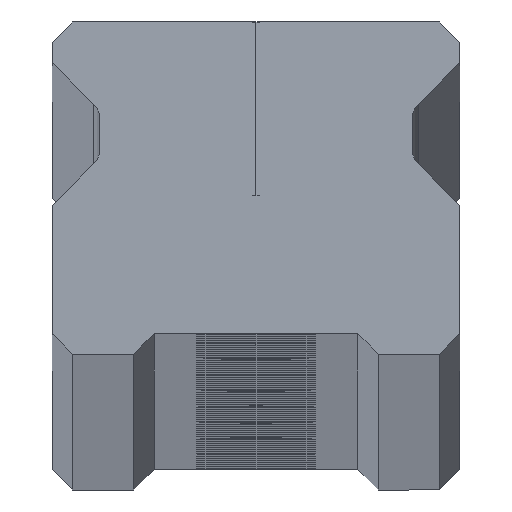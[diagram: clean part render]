
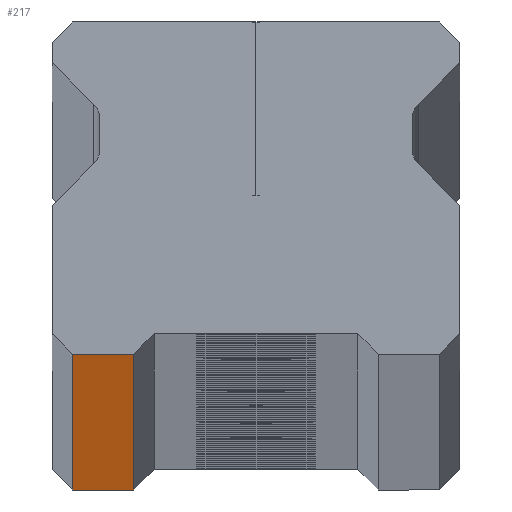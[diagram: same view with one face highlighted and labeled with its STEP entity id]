
A CAD part, top view. The second image highlights one B-rep face of the part: STEP entity #217.
In plain terms, the highlighted planar face has unit normal (0, -1, 0).
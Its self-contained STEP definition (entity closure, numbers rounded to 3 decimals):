
#217 = ADVANCED_FACE ( 'NONE', ( #597 ), #290, .F. ) ;
#290 = PLANE ( 'NONE',  #6497 ) ;
#597 = FACE_OUTER_BOUND ( 'NONE', #5978, .T. ) ;
#725 = EDGE_CURVE ( 'NONE', #9194, #9977, #2794, .T. ) ;
#900 = DIRECTION ( 'NONE',  ( 1., 0., 0. ) ) ;
#1119 = CARTESIAN_POINT ( 'NONE',  ( 10., 0., 1910. ) ) ;
#1175 = VECTOR ( 'NONE', #3981, 1000. ) ;
#1895 = LINE ( 'NONE', #10173, #4383 ) ;
#2686 = DIRECTION ( 'NONE',  ( 1., 0., 0. ) ) ;
#2770 = ORIENTED_EDGE ( 'NONE', *, *, #8686, .F. ) ;
#2794 = LINE ( 'NONE', #4322, #10198 ) ;
#3567 = DIRECTION ( 'NONE',  ( -1., 0., 0. ) ) ;
#3981 = DIRECTION ( 'NONE',  ( 0., 0., 1. ) ) ;
#4164 = CARTESIAN_POINT ( 'NONE',  ( -6., 0., -1910. ) ) ;
#4322 = CARTESIAN_POINT ( 'NONE',  ( -9., 0., 1910. ) ) ;
#4383 = VECTOR ( 'NONE', #2686, 1000. ) ;
#4845 = CARTESIAN_POINT ( 'NONE',  ( -6., 0., -1910. ) ) ;
#5155 = DIRECTION ( 'NONE',  ( 0., 0., -1. ) ) ;
#5821 = EDGE_CURVE ( 'NONE', #9977, #7728, #1895, .T. ) ;
#5978 = EDGE_LOOP ( 'NONE', ( #6302, #8519, #2770, #7680 ) ) ;
#6302 = ORIENTED_EDGE ( 'NONE', *, *, #5821, .T. ) ;
#6497 = AXIS2_PLACEMENT_3D ( 'NONE', #1119, #7017, #3567 ) ;
#6803 = LINE ( 'NONE', #7531, #8478 ) ;
#7017 = DIRECTION ( 'NONE',  ( 0., 1., 0. ) ) ;
#7531 = CARTESIAN_POINT ( 'NONE',  ( 10., 0., 1910. ) ) ;
#7680 = ORIENTED_EDGE ( 'NONE', *, *, #725, .T. ) ;
#7728 = VERTEX_POINT ( 'NONE', #4164 ) ;
#7866 = VERTEX_POINT ( 'NONE', #9253 ) ;
#8478 = VECTOR ( 'NONE', #900, 1000. ) ;
#8519 = ORIENTED_EDGE ( 'NONE', *, *, #8623, .T. ) ;
#8551 = CARTESIAN_POINT ( 'NONE',  ( -9., 0., 1910. ) ) ;
#8623 = EDGE_CURVE ( 'NONE', #7728, #7866, #9637, .T. ) ;
#8686 = EDGE_CURVE ( 'NONE', #9194, #7866, #6803, .T. ) ;
#8796 = CARTESIAN_POINT ( 'NONE',  ( -9., 0., -1910. ) ) ;
#9194 = VERTEX_POINT ( 'NONE', #8551 ) ;
#9253 = CARTESIAN_POINT ( 'NONE',  ( -6., 0., 1910. ) ) ;
#9637 = LINE ( 'NONE', #4845, #1175 ) ;
#9977 = VERTEX_POINT ( 'NONE', #8796 ) ;
#10173 = CARTESIAN_POINT ( 'NONE',  ( 10., 0., -1910. ) ) ;
#10198 = VECTOR ( 'NONE', #5155, 1000. ) ;
